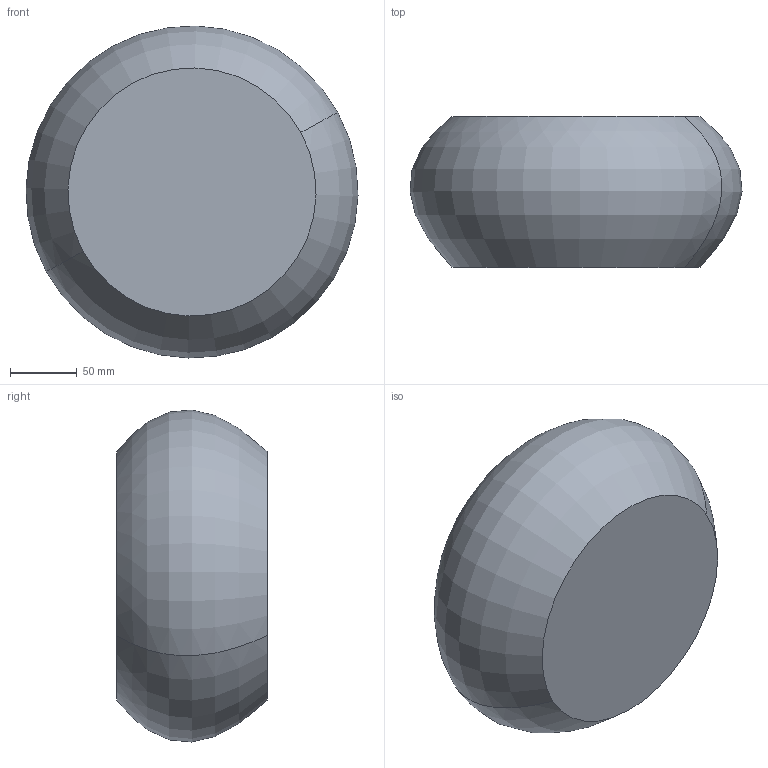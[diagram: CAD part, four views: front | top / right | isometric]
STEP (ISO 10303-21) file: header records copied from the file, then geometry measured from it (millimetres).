
FILE_DESCRIPTION(('CATIA V5 STEP Exchange'),'2;1');
FILE_NAME('C:\_Andres\UNIVERSIDAD\IQS\ASIGNATURAS\DAO\EXF\EXF-15161c\1original\Busquet_Ribera_Ej10-decora_v3.stp','2016-03-04T22:24:11+00:00',('none'),('none'),'CATIA Version 5 Release 20 SP 1 (IN-10)','CATIA V5 STEP AP203','none');
FILE_SCHEMA(('CONFIG_CONTROL_DESIGN'));
Length unit declared in the file: millimetre
Products named in the file (1): Busquet_Ribera_Ej10-decora_v3
Bounding box: 248.84 x 113 x 248.84 mm (x, y, z)
Volume: 4649927.9 mm3; surface area: 148996 mm2
Topology: 1 solids, 1 shells, 4 faces, 6 edges, 4 vertices
Faces by surface type: revolution 2, plane 2
Entity records: 166 total; most frequent: CARTESIAN_POINT 50, DIRECTION 12, ORIENTED_EDGE 12, AXIS2_PLACEMENT_3D 8, EDGE_CURVE 6, ADVANCED_FACE 4, B_SPLINE_CURVE_WITH_KNOTS 4, CC_DESIGN_PERSON_AND_ORGANIZATION_ASSIGNMENT 4
